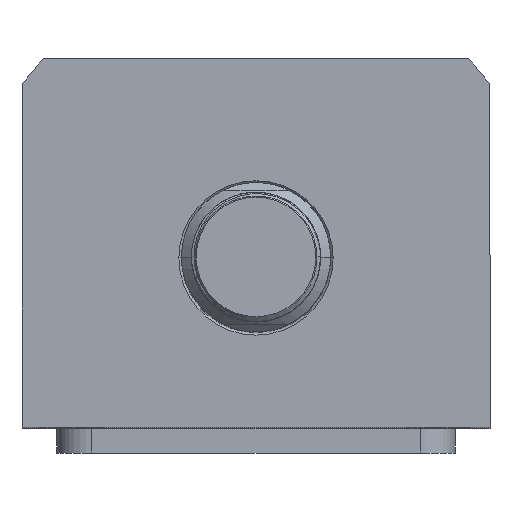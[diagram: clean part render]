
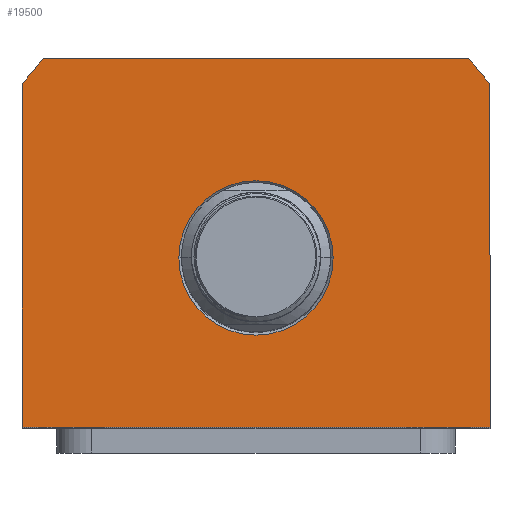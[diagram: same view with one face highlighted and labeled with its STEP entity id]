
A CAD part, top view. The second image highlights one B-rep face of the part: STEP entity #19500.
In plain terms, the highlighted planar face has unit normal (0, 0, 1).
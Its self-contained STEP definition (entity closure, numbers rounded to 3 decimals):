
#134 = EDGE_CURVE ( 'NONE', #11043, #14313, #19418, .T. ) ;
#266 = VERTEX_POINT ( 'NONE', #16517 ) ;
#591 = DIRECTION ( 'NONE',  ( 1., 0., 0. ) ) ;
#885 = CARTESIAN_POINT ( 'NONE',  ( 47., 34.832, 75. ) ) ;
#1307 = VECTOR ( 'NONE', #14408, 1000. ) ;
#1598 = CIRCLE ( 'NONE', #7269, 58.5 ) ;
#1747 = VERTEX_POINT ( 'NONE', #885 ) ;
#2099 = CARTESIAN_POINT ( 'NONE',  ( 0., 0., 75. ) ) ;
#2219 = EDGE_CURVE ( 'NONE', #14548, #1747, #13439, .T. ) ;
#2526 = DIRECTION ( 'NONE',  ( 0., 0., 1. ) ) ;
#2658 = CARTESIAN_POINT ( 'NONE',  ( -47., 34.832, 75. ) ) ;
#2902 = VERTEX_POINT ( 'NONE', #16519 ) ;
#3104 = VERTEX_POINT ( 'NONE', #12257 ) ;
#3501 = DIRECTION ( 'NONE',  ( 0., 0., -1. ) ) ;
#3612 = VECTOR ( 'NONE', #7076, 1000. ) ;
#4418 = AXIS2_PLACEMENT_3D ( 'NONE', #2099, #3501, #591 ) ;
#5253 = CARTESIAN_POINT ( 'NONE',  ( -47., -34., 75. ) ) ;
#5386 = DIRECTION ( 'NONE',  ( 1., 0., 0. ) ) ;
#5452 = DIRECTION ( 'NONE',  ( 0., 0., 1. ) ) ;
#5577 = CARTESIAN_POINT ( 'NONE',  ( 0., 0., 75. ) ) ;
#5759 = ORIENTED_EDGE ( 'NONE', *, *, #10312, .T. ) ;
#5791 = EDGE_CURVE ( 'NONE', #2902, #11043, #1598, .T. ) ;
#6313 = EDGE_CURVE ( 'NONE', #19153, #3104, #6826, .T. ) ;
#6430 = AXIS2_PLACEMENT_3D ( 'NONE', #5577, #2526, #17875 ) ;
#6572 = CIRCLE ( 'NONE', #16829, 58.5 ) ;
#6660 = EDGE_LOOP ( 'NONE', ( #9400, #9395 ) ) ;
#6793 = AXIS2_PLACEMENT_3D ( 'NONE', #9969, #14620, #16264 ) ;
#6826 = CIRCLE ( 'NONE', #4418, 15.5 ) ;
#7076 = DIRECTION ( 'NONE',  ( 0., 1., 0. ) ) ;
#7269 = AXIS2_PLACEMENT_3D ( 'NONE', #11476, #5452, #5386 ) ;
#7383 = DIRECTION ( 'NONE',  ( 1., 0., 0. ) ) ;
#7812 = VECTOR ( 'NONE', #10267, 1000. ) ;
#7836 = CARTESIAN_POINT ( 'NONE',  ( -42.688, 40., 75. ) ) ;
#8669 = EDGE_CURVE ( 'NONE', #1747, #266, #6572, .T. ) ;
#9016 = CARTESIAN_POINT ( 'NONE',  ( 47., -34., 75. ) ) ;
#9116 = ORIENTED_EDGE ( 'NONE', *, *, #8669, .T. ) ;
#9213 = ORIENTED_EDGE ( 'NONE', *, *, #2219, .T. ) ;
#9395 = ORIENTED_EDGE ( 'NONE', *, *, #16842, .T. ) ;
#9400 = ORIENTED_EDGE ( 'NONE', *, *, #6313, .T. ) ;
#9622 = DIRECTION ( 'NONE',  ( -1., 0., 0. ) ) ;
#9969 = CARTESIAN_POINT ( 'NONE',  ( 0., 0., 75. ) ) ;
#10034 = EDGE_LOOP ( 'NONE', ( #18565, #9213, #9116, #5759, #13190, #11679 ) ) ;
#10146 = CARTESIAN_POINT ( 'NONE',  ( 47., 34.832, 75. ) ) ;
#10183 = CARTESIAN_POINT ( 'NONE',  ( 0., 0., 75. ) ) ;
#10267 = DIRECTION ( 'NONE',  ( 1., 0., 0. ) ) ;
#10312 = EDGE_CURVE ( 'NONE', #266, #2902, #12491, .T. ) ;
#10797 = FACE_OUTER_BOUND ( 'NONE', #10034, .T. ) ;
#11043 = VERTEX_POINT ( 'NONE', #2658 ) ;
#11476 = CARTESIAN_POINT ( 'NONE',  ( 0., 0., 75. ) ) ;
#11679 = ORIENTED_EDGE ( 'NONE', *, *, #134, .T. ) ;
#12124 = CARTESIAN_POINT ( 'NONE',  ( 15.5, 0., 75. ) ) ;
#12257 = CARTESIAN_POINT ( 'NONE',  ( -15.5, 0., 75. ) ) ;
#12491 = LINE ( 'NONE', #7836, #18446 ) ;
#13190 = ORIENTED_EDGE ( 'NONE', *, *, #5791, .T. ) ;
#13439 = LINE ( 'NONE', #10146, #3612 ) ;
#13978 = EDGE_CURVE ( 'NONE', #14313, #14548, #14454, .T. ) ;
#14313 = VERTEX_POINT ( 'NONE', #18536 ) ;
#14408 = DIRECTION ( 'NONE',  ( 0., -1., 0. ) ) ;
#14454 = LINE ( 'NONE', #9016, #7812 ) ;
#14548 = VERTEX_POINT ( 'NONE', #15183 ) ;
#14620 = DIRECTION ( 'NONE',  ( 0., 0., -1. ) ) ;
#15183 = CARTESIAN_POINT ( 'NONE',  ( 47., -34., 75. ) ) ;
#16264 = DIRECTION ( 'NONE',  ( 1., 0., 0. ) ) ;
#16307 = CIRCLE ( 'NONE', #6793, 15.5 ) ;
#16517 = CARTESIAN_POINT ( 'NONE',  ( 42.688, 40., 75. ) ) ;
#16519 = CARTESIAN_POINT ( 'NONE',  ( -42.688, 40., 75. ) ) ;
#16829 = AXIS2_PLACEMENT_3D ( 'NONE', #10183, #17850, #7383 ) ;
#16842 = EDGE_CURVE ( 'NONE', #3104, #19153, #16307, .T. ) ;
#17850 = DIRECTION ( 'NONE',  ( 0., 0., 1. ) ) ;
#17875 = DIRECTION ( 'NONE',  ( 1., 0., 0. ) ) ;
#18446 = VECTOR ( 'NONE', #9622, 1000. ) ;
#18536 = CARTESIAN_POINT ( 'NONE',  ( -47., -34., 75. ) ) ;
#18565 = ORIENTED_EDGE ( 'NONE', *, *, #13978, .T. ) ;
#18874 = FACE_BOUND ( 'NONE', #6660, .T. ) ;
#19153 = VERTEX_POINT ( 'NONE', #12124 ) ;
#19379 = PLANE ( 'NONE',  #6430 ) ;
#19418 = LINE ( 'NONE', #5253, #1307 ) ;
#19500 = ADVANCED_FACE ( 'NONE', ( #18874, #10797 ), #19379, .T. ) ;
